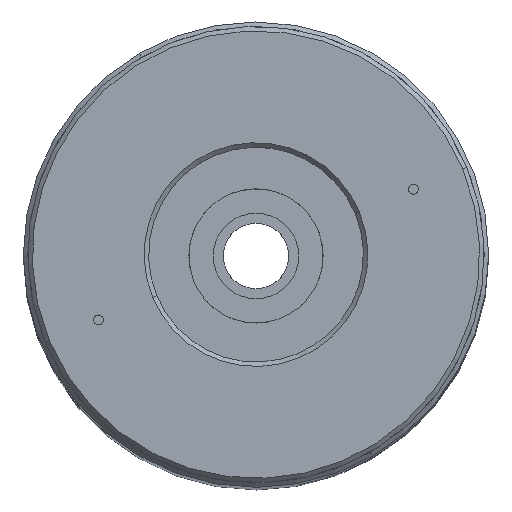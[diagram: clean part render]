
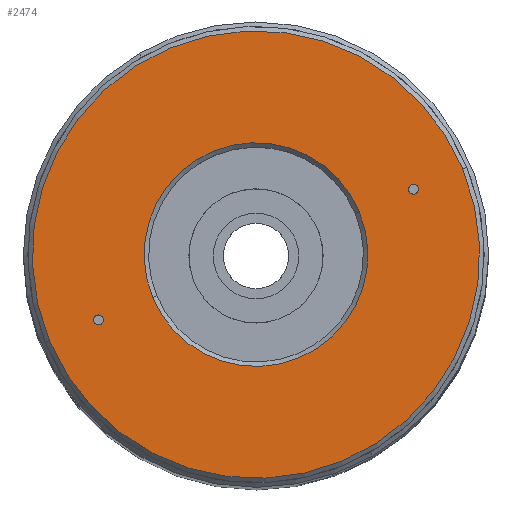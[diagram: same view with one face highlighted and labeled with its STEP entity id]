
A CAD part, top view. The second image highlights one B-rep face of the part: STEP entity #2474.
In plain terms, the highlighted planar face has unit normal (0, 0, 1) as drawn and (0, 0, -1) by its records, which use the part's own axes.
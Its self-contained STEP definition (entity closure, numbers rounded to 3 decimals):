
#74 = DIRECTION ( 'NONE',  ( -1., 0., 0. ) ) ;
#91 = DIRECTION ( 'NONE',  ( 0., 0., -1. ) ) ;
#206 = DIRECTION ( 'NONE',  ( 0., 0., 1. ) ) ;
#214 = EDGE_CURVE ( 'NONE', #3625, #4438, #828, .T. ) ;
#348 = PLANE ( 'NONE',  #666 ) ;
#447 = CARTESIAN_POINT ( 'NONE',  ( 19.6, 0., 0. ) ) ;
#495 = CIRCLE ( 'NONE', #5066, 0.55 ) ;
#547 = VERTEX_POINT ( 'NONE', #4593 ) ;
#666 = AXIS2_PLACEMENT_3D ( 'NONE', #2014, #1174, #4104 ) ;
#759 = CIRCLE ( 'NONE', #2026, 0.55 ) ;
#828 = CIRCLE ( 'NONE', #3285, 0.55 ) ;
#834 = DIRECTION ( 'NONE',  ( 1., 0., 0. ) ) ;
#940 = CIRCLE ( 'NONE', #1435, 0.55 ) ;
#1015 = DIRECTION ( 'NONE',  ( 0., 0., -1. ) ) ;
#1060 = CIRCLE ( 'NONE', #3123, 12.5 ) ;
#1122 = EDGE_CURVE ( 'NONE', #4748, #2712, #759, .T. ) ;
#1174 = DIRECTION ( 'NONE',  ( 0., 0., 1. ) ) ;
#1245 = CARTESIAN_POINT ( 'NONE',  ( 0., 0., 0. ) ) ;
#1435 = AXIS2_PLACEMENT_3D ( 'NONE', #3537, #1015, #3946 ) ;
#1699 = CIRCLE ( 'NONE', #3930, 25. ) ;
#1743 = CARTESIAN_POINT ( 'NONE',  ( 19.05, 0., 0. ) ) ;
#1751 = CARTESIAN_POINT ( 'NONE',  ( -19.05, 0., 0. ) ) ;
#1758 = EDGE_CURVE ( 'NONE', #4785, #5191, #4069, .T. ) ;
#1779 = EDGE_LOOP ( 'NONE', ( #4188, #4669 ) ) ;
#1903 = EDGE_LOOP ( 'NONE', ( #4523, #4526 ) ) ;
#1986 = EDGE_CURVE ( 'NONE', #4438, #3625, #940, .T. ) ;
#2014 = CARTESIAN_POINT ( 'NONE',  ( 0., 0., 0. ) ) ;
#2026 = AXIS2_PLACEMENT_3D ( 'NONE', #1751, #4684, #2169 ) ;
#2041 = EDGE_CURVE ( 'NONE', #3647, #547, #1060, .T. ) ;
#2169 = DIRECTION ( 'NONE',  ( -1., 0., 0. ) ) ;
#2287 = CARTESIAN_POINT ( 'NONE',  ( 0., 0., 0. ) ) ;
#2474 = ADVANCED_FACE ( 'NONE', ( #4312, #2750, #3607, #4723 ), #348, .F. ) ;
#2528 = CIRCLE ( 'NONE', #3234, 12.5 ) ;
#2542 = ORIENTED_EDGE ( 'NONE', *, *, #1986, .F. ) ;
#2605 = CARTESIAN_POINT ( 'NONE',  ( 0., 0., 0. ) ) ;
#2657 = EDGE_LOOP ( 'NONE', ( #3378, #3347 ) ) ;
#2712 = VERTEX_POINT ( 'NONE', #3719 ) ;
#2715 = CARTESIAN_POINT ( 'NONE',  ( -19.05, 0., 0. ) ) ;
#2723 = DIRECTION ( 'NONE',  ( 1., 0., 0. ) ) ;
#2726 = CARTESIAN_POINT ( 'NONE',  ( 0., 0., 0. ) ) ;
#2749 = CARTESIAN_POINT ( 'NONE',  ( -25., 0., 0. ) ) ;
#2750 = FACE_BOUND ( 'NONE', #1779, .T. ) ;
#2944 = EDGE_CURVE ( 'NONE', #5191, #4785, #1699, .T. ) ;
#3021 = DIRECTION ( 'NONE',  ( 1., 0., 0. ) ) ;
#3123 = AXIS2_PLACEMENT_3D ( 'NONE', #2726, #206, #3139 ) ;
#3139 = DIRECTION ( 'NONE',  ( 1., 0., 0. ) ) ;
#3234 = AXIS2_PLACEMENT_3D ( 'NONE', #2287, #5242, #2723 ) ;
#3285 = AXIS2_PLACEMENT_3D ( 'NONE', #1743, #4670, #74 ) ;
#3313 = CARTESIAN_POINT ( 'NONE',  ( 25., 0., 0. ) ) ;
#3347 = ORIENTED_EDGE ( 'NONE', *, *, #3893, .T. ) ;
#3378 = ORIENTED_EDGE ( 'NONE', *, *, #2041, .T. ) ;
#3520 = AXIS2_PLACEMENT_3D ( 'NONE', #1245, #3768, #834 ) ;
#3537 = CARTESIAN_POINT ( 'NONE',  ( 19.05, 0., 0. ) ) ;
#3547 = DIRECTION ( 'NONE',  ( -1., 0., 0. ) ) ;
#3607 = FACE_BOUND ( 'NONE', #2657, .T. ) ;
#3625 = VERTEX_POINT ( 'NONE', #4905 ) ;
#3647 = VERTEX_POINT ( 'NONE', #3660 ) ;
#3660 = CARTESIAN_POINT ( 'NONE',  ( -12.5, 0., 0. ) ) ;
#3692 = ORIENTED_EDGE ( 'NONE', *, *, #214, .F. ) ;
#3719 = CARTESIAN_POINT ( 'NONE',  ( -18.5, 0., 0. ) ) ;
#3768 = DIRECTION ( 'NONE',  ( 0., 0., -1. ) ) ;
#3893 = EDGE_CURVE ( 'NONE', #547, #3647, #2528, .T. ) ;
#3930 = AXIS2_PLACEMENT_3D ( 'NONE', #2605, #91, #3021 ) ;
#3946 = DIRECTION ( 'NONE',  ( -1., 0., 0. ) ) ;
#4069 = CIRCLE ( 'NONE', #3520, 25. ) ;
#4104 = DIRECTION ( 'NONE',  ( 1., 0., 0. ) ) ;
#4188 = ORIENTED_EDGE ( 'NONE', *, *, #1122, .F. ) ;
#4214 = EDGE_LOOP ( 'NONE', ( #3692, #2542 ) ) ;
#4312 = FACE_BOUND ( 'NONE', #4214, .T. ) ;
#4361 = DIRECTION ( 'NONE',  ( 0., 0., -1. ) ) ;
#4376 = CARTESIAN_POINT ( 'NONE',  ( -19.6, 0., 0. ) ) ;
#4438 = VERTEX_POINT ( 'NONE', #447 ) ;
#4523 = ORIENTED_EDGE ( 'NONE', *, *, #2944, .T. ) ;
#4526 = ORIENTED_EDGE ( 'NONE', *, *, #1758, .T. ) ;
#4593 = CARTESIAN_POINT ( 'NONE',  ( 12.5, 0., 0. ) ) ;
#4632 = EDGE_CURVE ( 'NONE', #2712, #4748, #495, .T. ) ;
#4669 = ORIENTED_EDGE ( 'NONE', *, *, #4632, .F. ) ;
#4670 = DIRECTION ( 'NONE',  ( 0., 0., -1. ) ) ;
#4684 = DIRECTION ( 'NONE',  ( 0., 0., -1. ) ) ;
#4723 = FACE_OUTER_BOUND ( 'NONE', #1903, .T. ) ;
#4748 = VERTEX_POINT ( 'NONE', #4376 ) ;
#4785 = VERTEX_POINT ( 'NONE', #2749 ) ;
#4905 = CARTESIAN_POINT ( 'NONE',  ( 18.5, 0., 0. ) ) ;
#5066 = AXIS2_PLACEMENT_3D ( 'NONE', #2715, #4361, #3547 ) ;
#5191 = VERTEX_POINT ( 'NONE', #3313 ) ;
#5242 = DIRECTION ( 'NONE',  ( 0., 0., 1. ) ) ;
